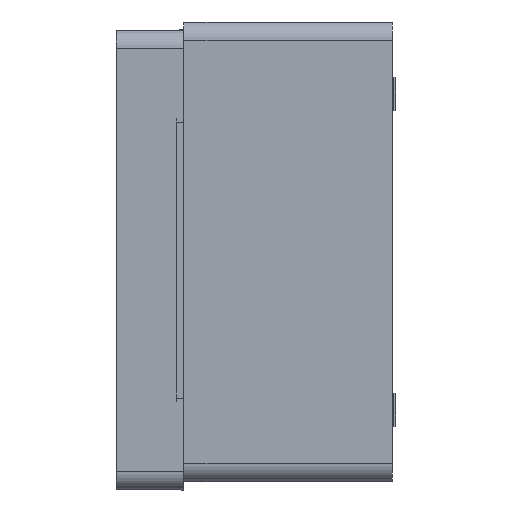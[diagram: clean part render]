
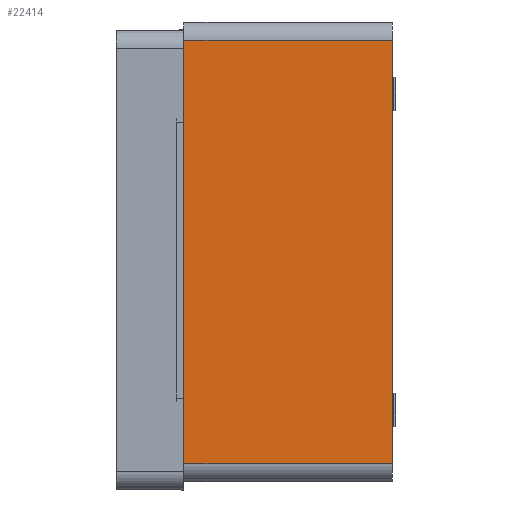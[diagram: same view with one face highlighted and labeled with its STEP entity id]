
A CAD part, left-side view. The second image highlights one B-rep face of the part: STEP entity #22414.
In plain terms, the highlighted planar face has unit normal (-1, 0, 0).
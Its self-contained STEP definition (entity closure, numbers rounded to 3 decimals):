
#346 = VECTOR ( 'NONE', #1370, 1000. ) ;
#412 = EDGE_CURVE ( 'NONE', #13682, #18623, #9755, .T. ) ;
#1220 = CARTESIAN_POINT ( 'NONE',  ( -135., 68., -69. ) ) ;
#1230 = DIRECTION ( 'NONE',  ( 0., 1., 0. ) ) ;
#1370 = DIRECTION ( 'NONE',  ( 0., -1., 0. ) ) ;
#1419 = EDGE_CURVE ( 'NONE', #15818, #23392, #2930, .T. ) ;
#2930 = LINE ( 'NONE', #22567, #10113 ) ;
#3731 = VECTOR ( 'NONE', #1230, 1000. ) ;
#4183 = FACE_OUTER_BOUND ( 'NONE', #7774, .T. ) ;
#4293 = VECTOR ( 'NONE', #23005, 1000. ) ;
#4813 = DIRECTION ( 'NONE',  ( 0., 0., 1. ) ) ;
#7774 = EDGE_LOOP ( 'NONE', ( #17555, #28514, #10255, #27721 ) ) ;
#8670 = CARTESIAN_POINT ( 'NONE',  ( -135., 68., -75. ) ) ;
#9755 = LINE ( 'NONE', #14920, #4293 ) ;
#10113 = VECTOR ( 'NONE', #4813, 1000. ) ;
#10255 = ORIENTED_EDGE ( 'NONE', *, *, #412, .F. ) ;
#11279 = CARTESIAN_POINT ( 'NONE',  ( -135., 0., -69. ) ) ;
#12231 = CARTESIAN_POINT ( 'NONE',  ( -135., 68., 69. ) ) ;
#13682 = VERTEX_POINT ( 'NONE', #16585 ) ;
#14920 = CARTESIAN_POINT ( 'NONE',  ( -135., 68., -75. ) ) ;
#15037 = EDGE_CURVE ( 'NONE', #23392, #18623, #20733, .T. ) ;
#15597 = DIRECTION ( 'NONE',  ( 1., 0., 0. ) ) ;
#15818 = VERTEX_POINT ( 'NONE', #11279 ) ;
#16585 = CARTESIAN_POINT ( 'NONE',  ( -135., 68., -69. ) ) ;
#17555 = ORIENTED_EDGE ( 'NONE', *, *, #1419, .T. ) ;
#18623 = VERTEX_POINT ( 'NONE', #19231 ) ;
#19231 = CARTESIAN_POINT ( 'NONE',  ( -135., 68., 69. ) ) ;
#20733 = LINE ( 'NONE', #12231, #3731 ) ;
#21005 = LINE ( 'NONE', #1220, #346 ) ;
#21505 = DIRECTION ( 'NONE',  ( 0., 0., -1. ) ) ;
#21709 = EDGE_CURVE ( 'NONE', #13682, #15818, #21005, .T. ) ;
#22414 = ADVANCED_FACE ( 'NONE', ( #4183 ), #23965, .F. ) ;
#22567 = CARTESIAN_POINT ( 'NONE',  ( -135., 0., -75. ) ) ;
#23005 = DIRECTION ( 'NONE',  ( 0., 0., 1. ) ) ;
#23392 = VERTEX_POINT ( 'NONE', #27131 ) ;
#23965 = PLANE ( 'NONE',  #28512 ) ;
#27131 = CARTESIAN_POINT ( 'NONE',  ( -135., 0., 69. ) ) ;
#27721 = ORIENTED_EDGE ( 'NONE', *, *, #21709, .T. ) ;
#28512 = AXIS2_PLACEMENT_3D ( 'NONE', #8670, #15597, #21505 ) ;
#28514 = ORIENTED_EDGE ( 'NONE', *, *, #15037, .T. ) ;
